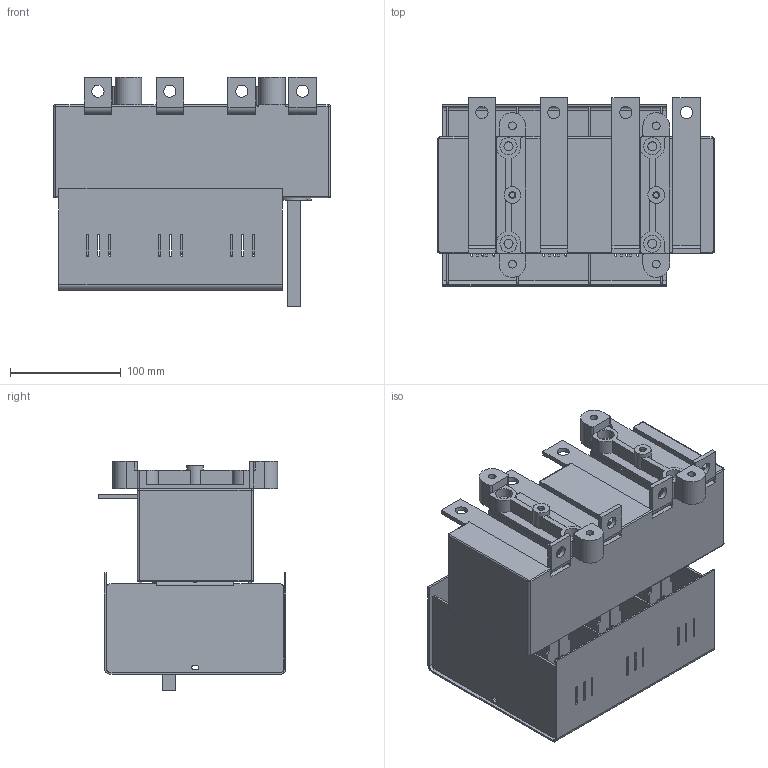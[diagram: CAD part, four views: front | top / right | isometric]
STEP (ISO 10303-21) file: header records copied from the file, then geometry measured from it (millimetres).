
FILE_DESCRIPTION(/* description */ (''),/* implementation_level */ '2;1');
FILE_NAME(/* name */ 'RAB 1 P3 NA.stp',/* time_stamp */ '2021-08-19T12:39:45+02:00',/* author */ (''),/* organization */ (''),/* preprocessor_version */ 'ST-DEVELOPER v18.1',/* originating_system */ 'SIEMENS PLM Software NX 1965',/* authorisation */ '');
FILE_SCHEMA (('AUTOMOTIVE_DESIGN { 1 0 10303 214 3 1 1 1 }'));
Length unit declared in the file: millimetre
Products named in the file (1): RAB 1 P3 NA_stp
Bounding box: 250 x 169.79 x 207.3 mm (x, y, z)
Volume: 2445464.7 mm3; surface area: 433222 mm2
Topology: 1 solids, 1 shells, 1018 faces, 2822 edges, 1838 vertices
Faces by surface type: plane 668, cylinder 342, torus 5, bspline 3
Full cylindrical faces by diameter (mm): 4.8 x2, 6.2 x2, 7 x4, 8.2 x4, 11 x8, 14 x4, 15 x2, 15.5 x4
Entity records: 32553 total; most frequent: CARTESIAN_POINT 5728, ORIENTED_EDGE 5576, DIRECTION 5532, EDGE_CURVE 2788, LINE 2064, VECTOR 2064, VERTEX_POINT 1834, AXIS2_PLACEMENT_3D 1734
